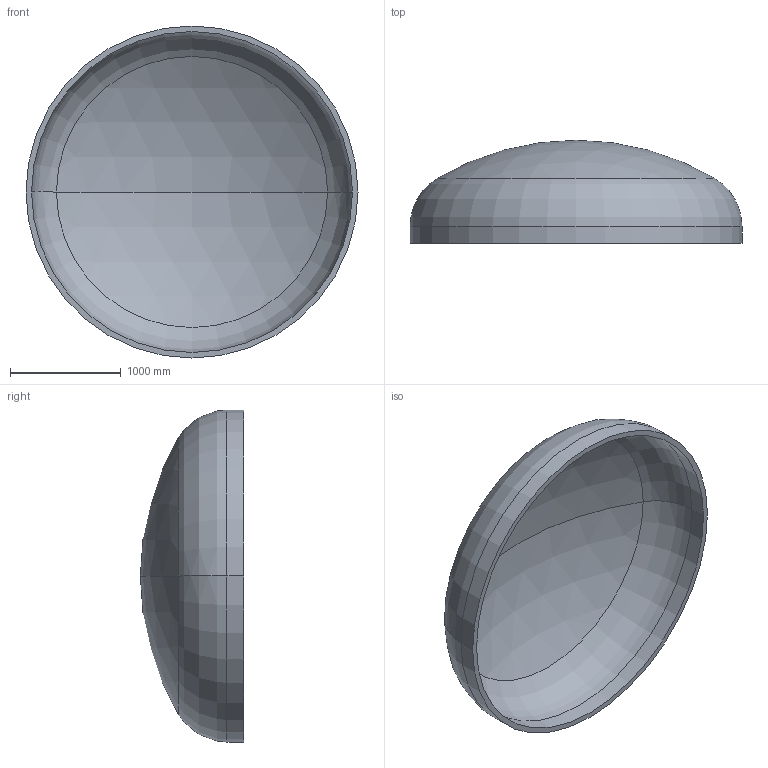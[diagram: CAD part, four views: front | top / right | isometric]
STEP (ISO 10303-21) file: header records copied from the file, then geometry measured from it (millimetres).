
FILE_DESCRIPTION (( 'STEP AP203' ), '1' );
FILE_NAME ('DIN 28013 Korbbogenform_-_Boden DIN 28013 - 3000 x 150 - I - s=50.step', '2016-07-01T17:51:56', ( '' ), ( '' ), 'SwSTEP 2.0', 'SolidWorks 2013', '' );
FILE_SCHEMA (( 'CONFIG_CONTROL_DESIGN' ));
Length unit declared in the file: millimetre
Products named in the file (1): DIN 28013 Korbbogenform_-_Boden DIN 28013 - 3000 x 150 - I - s=50
Bounding box: 3000 x 931.62 x 3000 mm (x, y, z)
Volume: 547945865.7 mm3; surface area: 22386448.1 mm2
Topology: 1 solids, 1 shells, 13 faces, 24 edges, 14 vertices
Faces by surface type: torus 4, cylinder 4, sphere 4, plane 1
Entity records: 407 total; most frequent: DIRECTION 72, CARTESIAN_POINT 52, ORIENTED_EDGE 48, AXIS2_PLACEMENT_3D 34, EDGE_CURVE 24, CIRCLE 20, EDGE_LOOP 14, VERTEX_POINT 14
